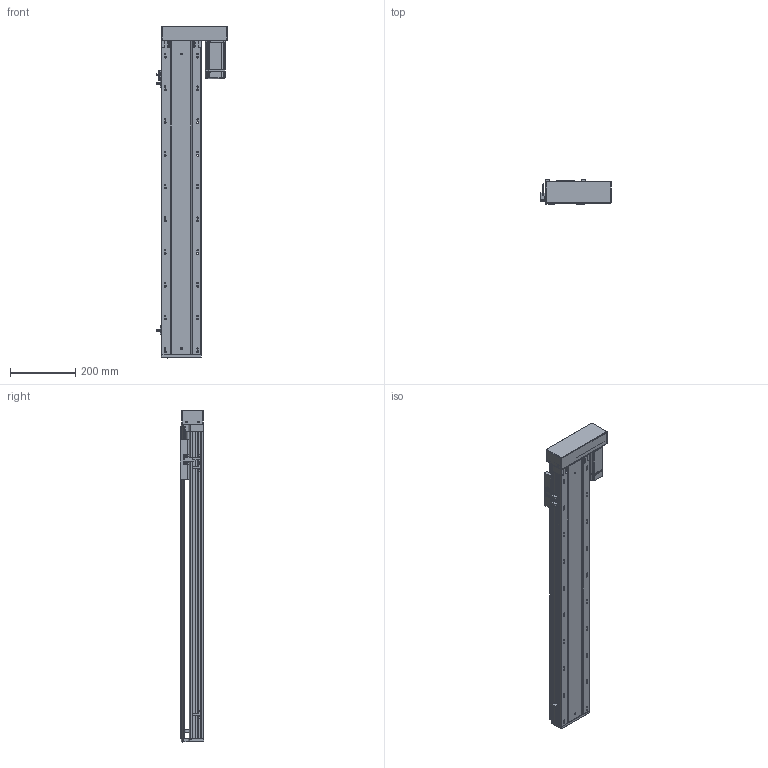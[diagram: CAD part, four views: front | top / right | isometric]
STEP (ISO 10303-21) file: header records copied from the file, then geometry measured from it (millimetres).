
FILE_DESCRIPTION (( 'STEP AP203' ), '1' );
FILE_NAME ('RY120-L2020-300-RK.SLDASM_750.step', '2021-03-12T07:14:42', ( '盈信电脑' ), ( '东莞市道滘镇水果街19号' ), 'SwSTEP 2.0', 'SolidWorks 2012', '' );
FILE_SCHEMA (( 'CONFIG_CONTROL_DESIGN' ));
Length unit declared in the file: millimetre
Products named in the file (15): RY120转拆电端丝杆支撑座(20丝杆，7002轴承); RY120酘殏萇儂假蚾啣; 15; RY120外置感应片(140共用）; 滅袉蝶18-24; 覜茼ん672; 滅袉蝶18-10; RY120臏賑輸(20蹟譫); RY120-300-RK蛌殏倰第奻裔啣_750; RY120-300-RK蛌殏倰第菁釱_750; RY120綴裔啣; RY120-L2020-300-RK.SLDASM_750; RY120-400W萇儂傷-酘衵殏_450; RY120蛌殏萇儂欶; 侂狟400W侜督萇儂
Assembly tree (17 placements, depth 4):
  RY120-L2020-300-RK.SLDASM_750
    RY120-300-RK蛌殏倰第菁釱_750
    RY120-300-RK蛌殏倰第奻裔啣_750
    RY120臏賑輸(20蹟譫)
    RY120綴裔啣
    覜茼ん672  x3
    滅袉蝶18-10
    滅袉蝶18-24  x2
    RY120外置感应片(140共用）
    RY120转拆电端丝杆支撑座(20丝杆，7002轴承)
    RY120-400W萇儂傷-酘衵殏_450
      RY120酘殏萇儂假蚾啣
      侂狟400W侜督萇儂
        15
      RY120蛌殏萇儂欶
Bounding box: 214.2 x 73 x 1014 mm (x, y, z)
Volume: 2993991.6 mm3; surface area: 1101165 mm2
Topology: 16 solids, 16 shells, 2562 faces, 7079 edges, 4536 vertices
Faces by surface type: plane 1246, cylinder 986, cone 225, bspline 105
Entity records: 85885 total; most frequent: CARTESIAN_POINT 24663, ORIENTED_EDGE 12846, DIRECTION 11747, EDGE_CURVE 6423, VERTEX_POINT 4204, AXIS2_PLACEMENT_3D 3925, LINE 3897, VECTOR 3897
